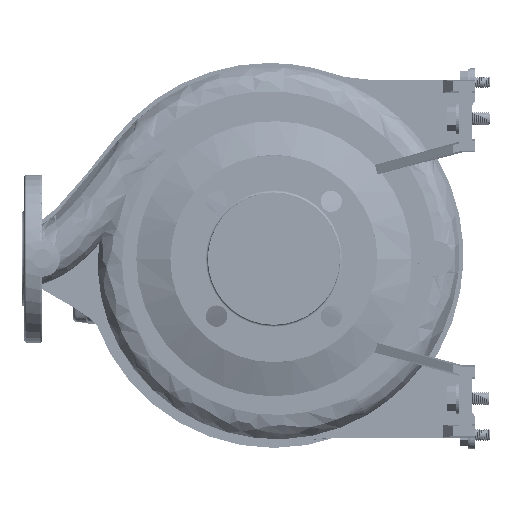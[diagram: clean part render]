
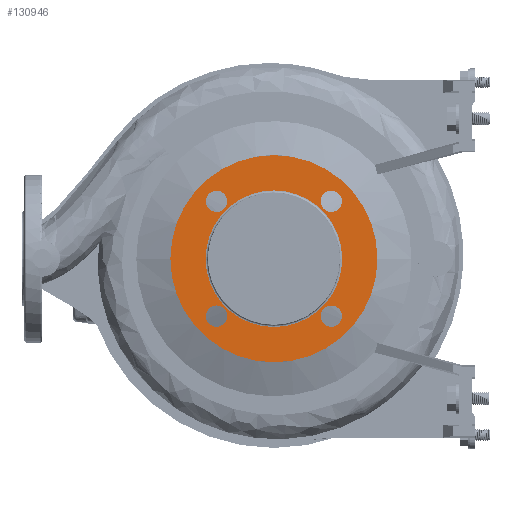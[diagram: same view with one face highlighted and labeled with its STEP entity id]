
A CAD part, left-side view. The second image highlights one B-rep face of the part: STEP entity #130946.
In plain terms, the highlighted planar face has unit normal (-1, 0, 0).
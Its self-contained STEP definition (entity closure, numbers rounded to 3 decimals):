
#1169 = AXIS2_PLACEMENT_3D ( 'NONE', #127683, #24257, #14466 ) ;
#1268 = EDGE_LOOP ( 'NONE', ( #187861, #188459 ) ) ;
#1518 = CIRCLE ( 'NONE', #25496, 9.5 ) ;
#2064 = DIRECTION ( 'NONE',  ( 0., 0., -1. ) ) ;
#3370 = DIRECTION ( 'NONE',  ( -1., 0., 0. ) ) ;
#4007 = DIRECTION ( 'NONE',  ( -1., 0., 0. ) ) ;
#7359 = CARTESIAN_POINT ( 'NONE',  ( -98., 51.265, -51.265 ) ) ;
#8224 = CARTESIAN_POINT ( 'NONE',  ( -98., 41.765, -51.265 ) ) ;
#8406 = ORIENTED_EDGE ( 'NONE', *, *, #9173, .F. ) ;
#8501 = CARTESIAN_POINT ( 'NONE',  ( -98., -51.265, 51.265 ) ) ;
#9173 = EDGE_CURVE ( 'NONE', #195753, #105710, #43027, .T. ) ;
#10326 = EDGE_CURVE ( 'NONE', #137589, #198040, #1518, .T. ) ;
#14466 = DIRECTION ( 'NONE',  ( 0., 1., 0. ) ) ;
#14475 = DIRECTION ( 'NONE',  ( 0., 1., 0. ) ) ;
#18328 = CARTESIAN_POINT ( 'NONE',  ( -98., -41.765, 51.265 ) ) ;
#18400 = CIRCLE ( 'NONE', #1169, 9.5 ) ;
#18788 = VERTEX_POINT ( 'NONE', #192461 ) ;
#24257 = DIRECTION ( 'NONE',  ( -1., 0., 0. ) ) ;
#25344 = ORIENTED_EDGE ( 'NONE', *, *, #111526, .F. ) ;
#25496 = AXIS2_PLACEMENT_3D ( 'NONE', #107597, #141026, #108686 ) ;
#27288 = CIRCLE ( 'NONE', #123654, 9.5 ) ;
#29873 = ORIENTED_EDGE ( 'NONE', *, *, #69880, .T. ) ;
#30639 = CARTESIAN_POINT ( 'NONE',  ( -98., 0., 0. ) ) ;
#32757 = EDGE_CURVE ( 'NONE', #62939, #91720, #168851, .T. ) ;
#33468 = ORIENTED_EDGE ( 'NONE', *, *, #73922, .F. ) ;
#37780 = VERTEX_POINT ( 'NONE', #51297 ) ;
#40427 = ORIENTED_EDGE ( 'NONE', *, *, #32757, .T. ) ;
#43027 = CIRCLE ( 'NONE', #163509, 9.5 ) ;
#43955 = DIRECTION ( 'NONE',  ( -1., 0., 0. ) ) ;
#44779 = FACE_BOUND ( 'NONE', #160131, .T. ) ;
#45022 = ORIENTED_EDGE ( 'NONE', *, *, #102196, .F. ) ;
#48158 = CIRCLE ( 'NONE', #130831, 9.5 ) ;
#49041 = DIRECTION ( 'NONE',  ( 0., 1., 0. ) ) ;
#51297 = CARTESIAN_POINT ( 'NONE',  ( -98., 92.5, 0. ) ) ;
#53019 = CIRCLE ( 'NONE', #142589, 9.5 ) ;
#55631 = DIRECTION ( 'NONE',  ( 1., 0., 0. ) ) ;
#62939 = VERTEX_POINT ( 'NONE', #76796 ) ;
#65064 = CARTESIAN_POINT ( 'NONE',  ( -98., 60.765, -51.265 ) ) ;
#66555 = CARTESIAN_POINT ( 'NONE',  ( -98., -60.765, 51.265 ) ) ;
#68304 = EDGE_LOOP ( 'NONE', ( #25344, #45022 ) ) ;
#69880 = EDGE_CURVE ( 'NONE', #91720, #62939, #203215, .T. ) ;
#71054 = VERTEX_POINT ( 'NONE', #65064 ) ;
#72894 = DIRECTION ( 'NONE',  ( 0., -1., 0. ) ) ;
#73922 = EDGE_CURVE ( 'NONE', #198040, #137589, #18400, .T. ) ;
#76796 = CARTESIAN_POINT ( 'NONE',  ( -98., -61., 0. ) ) ;
#76920 = DIRECTION ( 'NONE',  ( 0., 1., 0. ) ) ;
#77120 = DIRECTION ( 'NONE',  ( 0., -1., 0. ) ) ;
#79707 = ORIENTED_EDGE ( 'NONE', *, *, #118252, .F. ) ;
#85946 = CARTESIAN_POINT ( 'NONE',  ( -98., 51.265, 51.265 ) ) ;
#86006 = AXIS2_PLACEMENT_3D ( 'NONE', #125717, #110556, #77120 ) ;
#86949 = CARTESIAN_POINT ( 'NONE',  ( -98., 0., 0. ) ) ;
#87197 = CARTESIAN_POINT ( 'NONE',  ( -98., 51.265, 51.265 ) ) ;
#87439 = VERTEX_POINT ( 'NONE', #134417 ) ;
#91720 = VERTEX_POINT ( 'NONE', #168703 ) ;
#92281 = FACE_BOUND ( 'NONE', #180061, .T. ) ;
#93202 = EDGE_CURVE ( 'NONE', #37780, #114751, #153347, .T. ) ;
#93321 = FACE_BOUND ( 'NONE', #181762, .T. ) ;
#95454 = FACE_OUTER_BOUND ( 'NONE', #146628, .T. ) ;
#99069 = EDGE_CURVE ( 'NONE', #105710, #195753, #27288, .T. ) ;
#102196 = EDGE_CURVE ( 'NONE', #87439, #18788, #154685, .T. ) ;
#102318 = DIRECTION ( 'NONE',  ( -1., 0., 0. ) ) ;
#105181 = AXIS2_PLACEMENT_3D ( 'NONE', #7359, #43955, #175462 ) ;
#105710 = VERTEX_POINT ( 'NONE', #66555 ) ;
#107085 = ORIENTED_EDGE ( 'NONE', *, *, #10326, .F. ) ;
#107597 = CARTESIAN_POINT ( 'NONE',  ( -98., -51.265, -51.265 ) ) ;
#108038 = CARTESIAN_POINT ( 'NONE',  ( -98., -60.765, -51.265 ) ) ;
#108466 = PLANE ( 'NONE',  #86006 ) ;
#108686 = DIRECTION ( 'NONE',  ( 0., 1., 0. ) ) ;
#110556 = DIRECTION ( 'NONE',  ( -1., 0., 0. ) ) ;
#111526 = EDGE_CURVE ( 'NONE', #18788, #87439, #53019, .T. ) ;
#114751 = VERTEX_POINT ( 'NONE', #121706 ) ;
#118252 = EDGE_CURVE ( 'NONE', #114751, #37780, #136544, .T. ) ;
#121706 = CARTESIAN_POINT ( 'NONE',  ( -98., -92.5, 0. ) ) ;
#123654 = AXIS2_PLACEMENT_3D ( 'NONE', #8501, #206800, #208942 ) ;
#125717 = CARTESIAN_POINT ( 'NONE',  ( -98., 61., 0. ) ) ;
#127683 = CARTESIAN_POINT ( 'NONE',  ( -98., -51.265, -51.265 ) ) ;
#130831 = AXIS2_PLACEMENT_3D ( 'NONE', #135939, #3370, #154210 ) ;
#130946 = ADVANCED_FACE ( 'NONE', ( #158003, #92281, #44779, #210801, #93321, #95454 ), #108466, .T. ) ;
#131003 = CARTESIAN_POINT ( 'NONE',  ( -98., 0., 0. ) ) ;
#134417 = CARTESIAN_POINT ( 'NONE',  ( -98., 60.765, 51.265 ) ) ;
#134450 = AXIS2_PLACEMENT_3D ( 'NONE', #207398, #194422, #76920 ) ;
#135939 = CARTESIAN_POINT ( 'NONE',  ( -98., 51.265, -51.265 ) ) ;
#136544 = CIRCLE ( 'NONE', #198447, 92.5 ) ;
#137589 = VERTEX_POINT ( 'NONE', #108038 ) ;
#141026 = DIRECTION ( 'NONE',  ( -1., 0., 0. ) ) ;
#142589 = AXIS2_PLACEMENT_3D ( 'NONE', #85946, #4007, #72894 ) ;
#146628 = EDGE_LOOP ( 'NONE', ( #186877, #79707 ) ) ;
#148282 = EDGE_CURVE ( 'NONE', #71054, #185336, #48158, .T. ) ;
#149734 = DIRECTION ( 'NONE',  ( -1., 0., 0. ) ) ;
#151900 = DIRECTION ( 'NONE',  ( 0., -1., 0. ) ) ;
#152713 = DIRECTION ( 'NONE',  ( 0., 1., 0. ) ) ;
#153347 = CIRCLE ( 'NONE', #177516, 92.5 ) ;
#154210 = DIRECTION ( 'NONE',  ( 0., 0., 1. ) ) ;
#154685 = CIRCLE ( 'NONE', #168518, 9.5 ) ;
#158003 = FACE_BOUND ( 'NONE', #1268, .T. ) ;
#158857 = CARTESIAN_POINT ( 'NONE',  ( -98., -41.765, -51.265 ) ) ;
#160131 = EDGE_LOOP ( 'NONE', ( #171682, #8406 ) ) ;
#163509 = AXIS2_PLACEMENT_3D ( 'NONE', #165863, #149734, #2064 ) ;
#164391 = DIRECTION ( 'NONE',  ( 1., 0., 0. ) ) ;
#165863 = CARTESIAN_POINT ( 'NONE',  ( -98., -51.265, 51.265 ) ) ;
#168518 = AXIS2_PLACEMENT_3D ( 'NONE', #87197, #102318, #151900 ) ;
#168703 = CARTESIAN_POINT ( 'NONE',  ( -98., 61., 0. ) ) ;
#168851 = CIRCLE ( 'NONE', #179664, 61. ) ;
#171682 = ORIENTED_EDGE ( 'NONE', *, *, #99069, .F. ) ;
#174133 = CIRCLE ( 'NONE', #105181, 9.5 ) ;
#175462 = DIRECTION ( 'NONE',  ( 0., 0., 1. ) ) ;
#177516 = AXIS2_PLACEMENT_3D ( 'NONE', #30639, #208555, #14475 ) ;
#179664 = AXIS2_PLACEMENT_3D ( 'NONE', #131003, #164391, #49041 ) ;
#180061 = EDGE_LOOP ( 'NONE', ( #107085, #33468 ) ) ;
#181762 = EDGE_LOOP ( 'NONE', ( #29873, #40427 ) ) ;
#185336 = VERTEX_POINT ( 'NONE', #8224 ) ;
#186877 = ORIENTED_EDGE ( 'NONE', *, *, #93202, .F. ) ;
#187861 = ORIENTED_EDGE ( 'NONE', *, *, #192081, .F. ) ;
#188459 = ORIENTED_EDGE ( 'NONE', *, *, #148282, .F. ) ;
#192081 = EDGE_CURVE ( 'NONE', #185336, #71054, #174133, .T. ) ;
#192461 = CARTESIAN_POINT ( 'NONE',  ( -98., 41.765, 51.265 ) ) ;
#194422 = DIRECTION ( 'NONE',  ( 1., 0., 0. ) ) ;
#195753 = VERTEX_POINT ( 'NONE', #18328 ) ;
#198040 = VERTEX_POINT ( 'NONE', #158857 ) ;
#198447 = AXIS2_PLACEMENT_3D ( 'NONE', #86949, #55631, #152713 ) ;
#203215 = CIRCLE ( 'NONE', #134450, 61. ) ;
#206800 = DIRECTION ( 'NONE',  ( -1., 0., 0. ) ) ;
#207398 = CARTESIAN_POINT ( 'NONE',  ( -98., 0., 0. ) ) ;
#208555 = DIRECTION ( 'NONE',  ( 1., 0., 0. ) ) ;
#208942 = DIRECTION ( 'NONE',  ( 0., 0., -1. ) ) ;
#210801 = FACE_BOUND ( 'NONE', #68304, .T. ) ;
